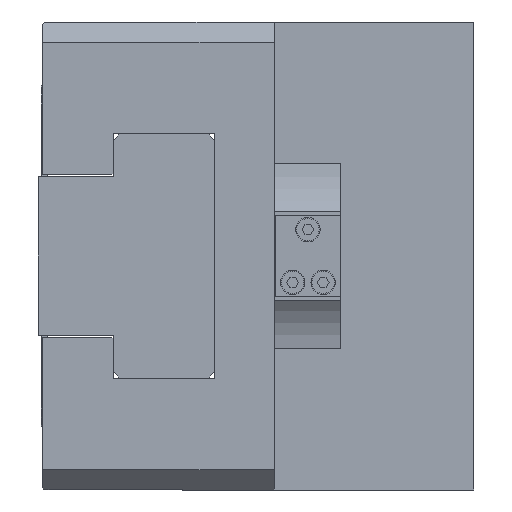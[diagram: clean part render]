
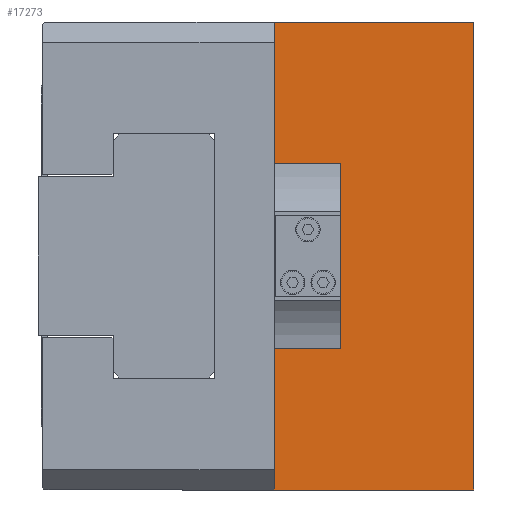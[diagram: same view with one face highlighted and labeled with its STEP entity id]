
A CAD part, left-side view. The second image highlights one B-rep face of the part: STEP entity #17273.
In plain terms, the highlighted planar face has unit normal (-1, 0, 0).
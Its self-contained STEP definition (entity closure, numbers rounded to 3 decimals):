
#14 = VERTEX_POINT ( 'NONE', #10958 ) ;
#26 = EDGE_CURVE ( 'NONE', #7475, #16999, #15589, .T. ) ;
#89 = CARTESIAN_POINT ( 'NONE',  ( -93., 49., 57.5 ) ) ;
#281 = CARTESIAN_POINT ( 'NONE',  ( -93., 49., -22.619 ) ) ;
#717 = LINE ( 'NONE', #6875, #16152 ) ;
#1117 = DIRECTION ( 'NONE',  ( 0., 0., -1. ) ) ;
#1365 = EDGE_CURVE ( 'NONE', #16275, #14, #6035, .T. ) ;
#1695 = ORIENTED_EDGE ( 'NONE', *, *, #1365, .T. ) ;
#2136 = VECTOR ( 'NONE', #1117, 1000. ) ;
#2141 = VERTEX_POINT ( 'NONE', #10472 ) ;
#3161 = ORIENTED_EDGE ( 'NONE', *, *, #15349, .T. ) ;
#3400 = ORIENTED_EDGE ( 'NONE', *, *, #12900, .T. ) ;
#3638 = VECTOR ( 'NONE', #6909, 1000. ) ;
#4453 = VERTEX_POINT ( 'NONE', #16369 ) ;
#4641 = DIRECTION ( 'NONE',  ( 0., 0., 1. ) ) ;
#5218 = CARTESIAN_POINT ( 'NONE',  ( -93., 0., -57.5 ) ) ;
#5359 = VECTOR ( 'NONE', #13005, 1000. ) ;
#5525 = DIRECTION ( 'NONE',  ( 0., 1., 0. ) ) ;
#5531 = DIRECTION ( 'NONE',  ( 0., 0., 1. ) ) ;
#6035 = LINE ( 'NONE', #5218, #8268 ) ;
#6305 = LINE ( 'NONE', #10946, #16712 ) ;
#6628 = CARTESIAN_POINT ( 'NONE',  ( -93., 49., -57.5 ) ) ;
#6875 = CARTESIAN_POINT ( 'NONE',  ( -93., 0., 57.5 ) ) ;
#6909 = DIRECTION ( 'NONE',  ( 0., -1., 0. ) ) ;
#7475 = VERTEX_POINT ( 'NONE', #13722 ) ;
#7713 = LINE ( 'NONE', #11890, #5359 ) ;
#8040 = DIRECTION ( 'NONE',  ( 0., -1., 0. ) ) ;
#8259 = EDGE_CURVE ( 'NONE', #2141, #11826, #7713, .T. ) ;
#8268 = VECTOR ( 'NONE', #8040, 1000. ) ;
#8295 = DIRECTION ( 'NONE',  ( 0., 0., 1. ) ) ;
#8850 = VECTOR ( 'NONE', #5525, 1000. ) ;
#9328 = EDGE_CURVE ( 'NONE', #10863, #7475, #13178, .T. ) ;
#10102 = CARTESIAN_POINT ( 'NONE',  ( -93., 0., 57.5 ) ) ;
#10145 = ORIENTED_EDGE ( 'NONE', *, *, #26, .T. ) ;
#10192 = CARTESIAN_POINT ( 'NONE',  ( -93., 0., -22.619 ) ) ;
#10288 = EDGE_CURVE ( 'NONE', #16275, #16999, #15858, .T. ) ;
#10472 = CARTESIAN_POINT ( 'NONE',  ( -93., 0., 57.5 ) ) ;
#10554 = LINE ( 'NONE', #10900, #3638 ) ;
#10575 = VECTOR ( 'NONE', #5531, 1000. ) ;
#10863 = VERTEX_POINT ( 'NONE', #16144 ) ;
#10900 = CARTESIAN_POINT ( 'NONE',  ( -93., 0., 22.619 ) ) ;
#10946 = CARTESIAN_POINT ( 'NONE',  ( -93., 49., 57.5 ) ) ;
#10958 = CARTESIAN_POINT ( 'NONE',  ( -93., 0., -57.5 ) ) ;
#11204 = ORIENTED_EDGE ( 'NONE', *, *, #8259, .T. ) ;
#11406 = PLANE ( 'NONE',  #15818 ) ;
#11826 = VERTEX_POINT ( 'NONE', #89 ) ;
#11890 = CARTESIAN_POINT ( 'NONE',  ( -93., 106., 57.5 ) ) ;
#12209 = DIRECTION ( 'NONE',  ( 0., 0., 1. ) ) ;
#12740 = DIRECTION ( 'NONE',  ( -1., 0., 0. ) ) ;
#12900 = EDGE_CURVE ( 'NONE', #14, #2141, #717, .T. ) ;
#13005 = DIRECTION ( 'NONE',  ( 0., 1., 0. ) ) ;
#13178 = LINE ( 'NONE', #17036, #2136 ) ;
#13406 = ORIENTED_EDGE ( 'NONE', *, *, #9328, .T. ) ;
#13722 = CARTESIAN_POINT ( 'NONE',  ( -93., 32.75, -22.619 ) ) ;
#14519 = FACE_OUTER_BOUND ( 'NONE', #14853, .T. ) ;
#14853 = EDGE_LOOP ( 'NONE', ( #3161, #13406, #10145, #15158, #1695, #3400, #11204, #15366 ) ) ;
#15158 = ORIENTED_EDGE ( 'NONE', *, *, #10288, .F. ) ;
#15349 = EDGE_CURVE ( 'NONE', #4453, #10863, #10554, .T. ) ;
#15366 = ORIENTED_EDGE ( 'NONE', *, *, #15846, .F. ) ;
#15589 = LINE ( 'NONE', #10192, #8850 ) ;
#15818 = AXIS2_PLACEMENT_3D ( 'NONE', #10102, #12740, #4641 ) ;
#15846 = EDGE_CURVE ( 'NONE', #4453, #11826, #6305, .T. ) ;
#15858 = LINE ( 'NONE', #17627, #10575 ) ;
#16144 = CARTESIAN_POINT ( 'NONE',  ( -93., 32.75, 22.619 ) ) ;
#16152 = VECTOR ( 'NONE', #12209, 1000. ) ;
#16275 = VERTEX_POINT ( 'NONE', #6628 ) ;
#16369 = CARTESIAN_POINT ( 'NONE',  ( -93., 49., 22.619 ) ) ;
#16712 = VECTOR ( 'NONE', #8295, 1000. ) ;
#16999 = VERTEX_POINT ( 'NONE', #281 ) ;
#17036 = CARTESIAN_POINT ( 'NONE',  ( -93., 32.75, 57.5 ) ) ;
#17273 = ADVANCED_FACE ( 'NONE', ( #14519 ), #11406, .T. ) ;
#17627 = CARTESIAN_POINT ( 'NONE',  ( -93., 49., 57.5 ) ) ;
